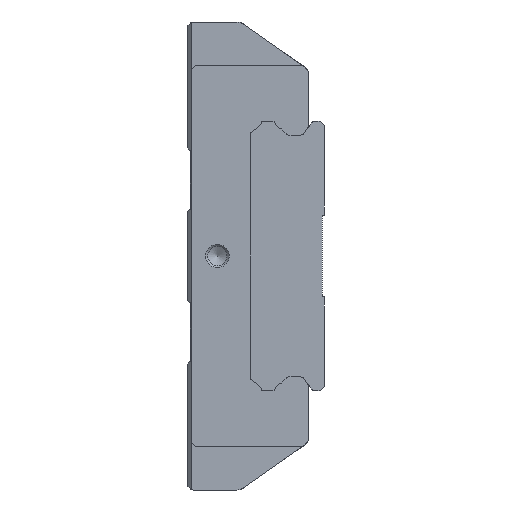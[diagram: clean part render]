
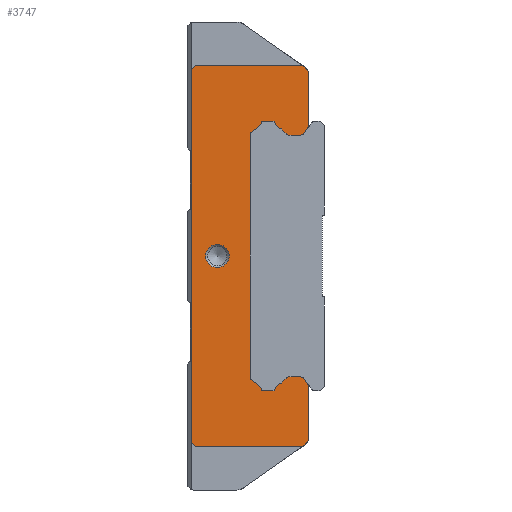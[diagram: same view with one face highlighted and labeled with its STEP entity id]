
A CAD part, left-side view. The second image highlights one B-rep face of the part: STEP entity #3747.
In plain terms, the highlighted planar face has unit normal (-1, 0, 0).
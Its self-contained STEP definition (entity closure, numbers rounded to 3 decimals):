
#149=PLANE('',#4084);
#389=LINE('',#5959,#737);
#403=LINE('',#5986,#751);
#409=LINE('',#5998,#757);
#413=LINE('',#6005,#761);
#425=LINE('',#6030,#773);
#428=LINE('',#6035,#776);
#434=LINE('',#6047,#782);
#440=LINE('',#6062,#788);
#444=LINE('',#6070,#792);
#454=LINE('',#6087,#802);
#455=LINE('',#6091,#803);
#456=LINE('',#6095,#804);
#457=LINE('',#6099,#805);
#458=LINE('',#6105,#806);
#459=LINE('',#6111,#807);
#460=LINE('',#6112,#808);
#461=LINE('',#6118,#809);
#462=LINE('',#6124,#810);
#463=LINE('',#6128,#811);
#464=LINE('',#6132,#812);
#737=VECTOR('',#4814,1000.);
#751=VECTOR('',#4834,1000.);
#757=VECTOR('',#4844,1000.);
#761=VECTOR('',#4850,1000.);
#773=VECTOR('',#4864,1000.);
#776=VECTOR('',#4869,1000.);
#782=VECTOR('',#4879,1000.);
#788=VECTOR('',#4899,1000.);
#792=VECTOR('',#4907,1000.);
#802=VECTOR('',#4919,1000.);
#803=VECTOR('',#4924,1000.);
#804=VECTOR('',#4927,1000.);
#805=VECTOR('',#4930,1000.);
#806=VECTOR('',#4935,1000.);
#807=VECTOR('',#4940,1000.);
#808=VECTOR('',#4941,1000.);
#809=VECTOR('',#4946,1000.);
#810=VECTOR('',#4951,1000.);
#811=VECTOR('',#4954,1000.);
#812=VECTOR('',#4957,1000.);
#1435=ORIENTED_EDGE('',*,*,#2287,.T.);
#1436=ORIENTED_EDGE('',*,*,#2288,.T.);
#1437=ORIENTED_EDGE('',*,*,#2289,.F.);
#1438=ORIENTED_EDGE('',*,*,#2290,.T.);
#1439=ORIENTED_EDGE('',*,*,#2291,.F.);
#1440=ORIENTED_EDGE('',*,*,#2292,.T.);
#1441=ORIENTED_EDGE('',*,*,#2293,.F.);
#1442=ORIENTED_EDGE('',*,*,#2294,.T.);
#1443=ORIENTED_EDGE('',*,*,#2295,.T.);
#1444=ORIENTED_EDGE('',*,*,#2296,.T.);
#1445=ORIENTED_EDGE('',*,*,#2297,.F.);
#1446=ORIENTED_EDGE('',*,*,#2298,.T.);
#1447=ORIENTED_EDGE('',*,*,#2264,.T.);
#1448=ORIENTED_EDGE('',*,*,#2299,.T.);
#1449=ORIENTED_EDGE('',*,*,#2300,.F.);
#1450=ORIENTED_EDGE('',*,*,#2301,.T.);
#1451=ORIENTED_EDGE('',*,*,#2302,.T.);
#1452=ORIENTED_EDGE('',*,*,#2303,.T.);
#1453=ORIENTED_EDGE('',*,*,#2304,.F.);
#1454=ORIENTED_EDGE('',*,*,#2305,.T.);
#1455=ORIENTED_EDGE('',*,*,#2306,.F.);
#1456=ORIENTED_EDGE('',*,*,#2307,.T.);
#1457=ORIENTED_EDGE('',*,*,#2308,.F.);
#1458=ORIENTED_EDGE('',*,*,#2309,.T.);
#1459=ORIENTED_EDGE('',*,*,#2286,.F.);
#1460=ORIENTED_EDGE('',*,*,#2243,.F.);
#1461=ORIENTED_EDGE('',*,*,#2239,.F.);
#1462=ORIENTED_EDGE('',*,*,#2233,.F.);
#1463=ORIENTED_EDGE('',*,*,#2272,.F.);
#1464=ORIENTED_EDGE('',*,*,#2219,.F.);
#1465=ORIENTED_EDGE('',*,*,#2258,.F.);
#1466=ORIENTED_EDGE('',*,*,#2255,.F.);
#1467=ORIENTED_EDGE('',*,*,#2276,.F.);
#2219=EDGE_CURVE('',#2675,#2676,#389,.T.);
#2233=EDGE_CURVE('',#2685,#2686,#403,.T.);
#2239=EDGE_CURVE('',#2686,#2690,#409,.T.);
#2243=EDGE_CURVE('',#2690,#2692,#413,.T.);
#2255=EDGE_CURVE('',#2703,#2704,#425,.T.);
#2258=EDGE_CURVE('',#2704,#2675,#428,.T.);
#2264=EDGE_CURVE('',#2706,#2708,#434,.T.);
#2272=EDGE_CURVE('',#2676,#2685,#440,.T.);
#2276=EDGE_CURVE('',#2711,#2703,#444,.T.);
#2286=EDGE_CURVE('',#2692,#2716,#454,.T.);
#2287=EDGE_CURVE('',#2719,#2719,#2915,.T.);
#2288=EDGE_CURVE('',#2711,#2720,#455,.T.);
#2289=EDGE_CURVE('',#2721,#2720,#2916,.T.);
#2290=EDGE_CURVE('',#2721,#2722,#456,.T.);
#2291=EDGE_CURVE('',#2723,#2722,#2917,.T.);
#2292=EDGE_CURVE('',#2723,#2724,#457,.T.);
#2293=EDGE_CURVE('',#2725,#2724,#2918,.T.);
#2294=EDGE_CURVE('',#2725,#2726,#2919,.T.);
#2295=EDGE_CURVE('',#2726,#2727,#458,.T.);
#2296=EDGE_CURVE('',#2727,#2728,#2920,.T.);
#2297=EDGE_CURVE('',#2729,#2728,#2921,.T.);
#2298=EDGE_CURVE('',#2729,#2706,#459,.T.);
#2299=EDGE_CURVE('',#2708,#2730,#460,.T.);
#2300=EDGE_CURVE('',#2731,#2730,#2922,.T.);
#2301=EDGE_CURVE('',#2731,#2732,#2923,.T.);
#2302=EDGE_CURVE('',#2732,#2733,#461,.T.);
#2303=EDGE_CURVE('',#2733,#2734,#2924,.T.);
#2304=EDGE_CURVE('',#2735,#2734,#2925,.T.);
#2305=EDGE_CURVE('',#2735,#2736,#462,.T.);
#2306=EDGE_CURVE('',#2737,#2736,#2926,.T.);
#2307=EDGE_CURVE('',#2737,#2738,#463,.T.);
#2308=EDGE_CURVE('',#2739,#2738,#2927,.T.);
#2309=EDGE_CURVE('',#2739,#2716,#464,.T.);
#2675=VERTEX_POINT('',#5958);
#2676=VERTEX_POINT('',#5960);
#2685=VERTEX_POINT('',#5985);
#2686=VERTEX_POINT('',#5987);
#2690=VERTEX_POINT('',#5999);
#2692=VERTEX_POINT('',#6006);
#2703=VERTEX_POINT('',#6029);
#2704=VERTEX_POINT('',#6031);
#2706=VERTEX_POINT('',#6042);
#2708=VERTEX_POINT('',#6046);
#2711=VERTEX_POINT('',#6068);
#2716=VERTEX_POINT('',#6080);
#2719=VERTEX_POINT('',#6090);
#2720=VERTEX_POINT('',#6092);
#2721=VERTEX_POINT('',#6094);
#2722=VERTEX_POINT('',#6096);
#2723=VERTEX_POINT('',#6098);
#2724=VERTEX_POINT('',#6100);
#2725=VERTEX_POINT('',#6102);
#2726=VERTEX_POINT('',#6104);
#2727=VERTEX_POINT('',#6106);
#2728=VERTEX_POINT('',#6108);
#2729=VERTEX_POINT('',#6110);
#2730=VERTEX_POINT('',#6113);
#2731=VERTEX_POINT('',#6115);
#2732=VERTEX_POINT('',#6117);
#2733=VERTEX_POINT('',#6119);
#2734=VERTEX_POINT('',#6121);
#2735=VERTEX_POINT('',#6123);
#2736=VERTEX_POINT('',#6125);
#2737=VERTEX_POINT('',#6127);
#2738=VERTEX_POINT('',#6129);
#2739=VERTEX_POINT('',#6131);
#2915=CIRCLE('',#4085,3.);
#2916=CIRCLE('',#4086,1.);
#2917=CIRCLE('',#4087,1.);
#2918=CIRCLE('',#4088,2.044);
#2919=CIRCLE('',#4089,0.2);
#2920=CIRCLE('',#4090,0.2);
#2921=CIRCLE('',#4091,2.044);
#2922=CIRCLE('',#4092,2.044);
#2923=CIRCLE('',#4093,0.2);
#2924=CIRCLE('',#4094,0.2);
#2925=CIRCLE('',#4095,2.044);
#2926=CIRCLE('',#4096,1.);
#2927=CIRCLE('',#4097,1.);
#3143=EDGE_LOOP('',(#1435));
#3144=EDGE_LOOP('',(#1436,#1437,#1438,#1439,#1440,#1441,#1442,#1443,#1444,
#1445,#1446,#1447,#1448,#1449,#1450,#1451,#1452,#1453,#1454,#1455,#1456,
#1457,#1458,#1459,#1460,#1461,#1462,#1463,#1464,#1465,#1466,#1467));
#3435=FACE_BOUND('',#3143,.T.);
#3436=FACE_BOUND('',#3144,.T.);
#3747=ADVANCED_FACE('',(#3435,#3436),#149,.F.);
#4084=AXIS2_PLACEMENT_3D('',#6088,#4920,#4921);
#4085=AXIS2_PLACEMENT_3D('',#6089,#4922,#4923);
#4086=AXIS2_PLACEMENT_3D('',#6093,#4925,#4926);
#4087=AXIS2_PLACEMENT_3D('',#6097,#4928,#4929);
#4088=AXIS2_PLACEMENT_3D('',#6101,#4931,#4932);
#4089=AXIS2_PLACEMENT_3D('',#6103,#4933,#4934);
#4090=AXIS2_PLACEMENT_3D('',#6107,#4936,#4937);
#4091=AXIS2_PLACEMENT_3D('',#6109,#4938,#4939);
#4092=AXIS2_PLACEMENT_3D('',#6114,#4942,#4943);
#4093=AXIS2_PLACEMENT_3D('',#6116,#4944,#4945);
#4094=AXIS2_PLACEMENT_3D('',#6120,#4947,#4948);
#4095=AXIS2_PLACEMENT_3D('',#6122,#4949,#4950);
#4096=AXIS2_PLACEMENT_3D('',#6126,#4952,#4953);
#4097=AXIS2_PLACEMENT_3D('',#6130,#4955,#4956);
#4814=DIRECTION('',(0.,0.707,0.707));
#4834=DIRECTION('',(0.,-0.707,0.707));
#4844=DIRECTION('',(0.,-1.,0.));
#4850=DIRECTION('',(0.,-0.707,-0.707));
#4864=DIRECTION('',(0.,0.707,-0.707));
#4869=DIRECTION('',(0.,1.,0.));
#4879=DIRECTION('',(0.,0.,1.));
#4899=DIRECTION('',(0.,0.,1.));
#4907=DIRECTION('',(0.,0.,-1.));
#4919=DIRECTION('',(0.,0.,-1.));
#4920=DIRECTION('',(1.,0.,0.));
#4921=DIRECTION('',(0.,0.,-1.));
#4922=DIRECTION('',(1.,0.,0.));
#4923=DIRECTION('',(0.,0.,-1.));
#4924=DIRECTION('',(0.,0.608,0.794));
#4925=DIRECTION('',(1.,0.,0.));
#4926=DIRECTION('',(0.,0.,-1.));
#4927=DIRECTION('',(0.,1.,0.));
#4928=DIRECTION('',(1.,0.,0.));
#4929=DIRECTION('',(0.,0.,-1.));
#4930=DIRECTION('',(0.,0.673,-0.74));
#4931=DIRECTION('',(1.,0.,0.));
#4932=DIRECTION('',(0.,0.,-1.));
#4933=DIRECTION('',(1.,0.,0.));
#4934=DIRECTION('',(0.,0.,-1.));
#4935=DIRECTION('',(0.,1.,0.));
#4936=DIRECTION('',(1.,0.,0.));
#4937=DIRECTION('',(0.,0.,-1.));
#4938=DIRECTION('',(1.,0.,0.));
#4939=DIRECTION('',(0.,0.,-1.));
#4940=DIRECTION('',(0.,0.825,0.565));
#4941=DIRECTION('',(0.,-0.825,0.565));
#4942=DIRECTION('',(1.,0.,0.));
#4943=DIRECTION('',(0.,0.,-1.));
#4944=DIRECTION('',(1.,0.,0.));
#4945=DIRECTION('',(0.,0.,-1.));
#4946=DIRECTION('',(0.,-1.,0.));
#4947=DIRECTION('',(1.,0.,0.));
#4948=DIRECTION('',(0.,0.,-1.));
#4949=DIRECTION('',(1.,0.,0.));
#4950=DIRECTION('',(0.,0.,-1.));
#4951=DIRECTION('',(0.,-0.673,-0.74));
#4952=DIRECTION('',(1.,0.,0.));
#4953=DIRECTION('',(0.,0.,-1.));
#4954=DIRECTION('',(0.,-1.,0.));
#4955=DIRECTION('',(1.,0.,0.));
#4956=DIRECTION('',(0.,0.,-1.));
#4957=DIRECTION('',(0.,-0.608,0.794));
#5958=CARTESIAN_POINT('',(-53.5,29.,-48.8));
#5959=CARTESIAN_POINT('',(-53.5,29.,-48.8));
#5960=CARTESIAN_POINT('',(-53.5,30.,-47.8));
#5985=CARTESIAN_POINT('',(-53.5,30.,47.8));
#5986=CARTESIAN_POINT('',(-53.5,30.,47.8));
#5987=CARTESIAN_POINT('',(-53.5,29.,48.8));
#5998=CARTESIAN_POINT('',(-53.5,29.,48.8));
#5999=CARTESIAN_POINT('',(-53.5,1.5,48.8));
#6005=CARTESIAN_POINT('',(-53.5,1.5,48.8));
#6006=CARTESIAN_POINT('',(-53.5,0.,47.3));
#6029=CARTESIAN_POINT('',(-53.5,0.,-47.3));
#6030=CARTESIAN_POINT('',(-53.5,0.,-47.3));
#6031=CARTESIAN_POINT('',(-53.5,1.5,-48.8));
#6035=CARTESIAN_POINT('',(-53.5,1.5,-48.8));
#6042=CARTESIAN_POINT('',(-53.5,15.,-31.55));
#6046=CARTESIAN_POINT('',(-53.5,15.,31.55));
#6047=CARTESIAN_POINT('',(-53.5,15.,-31.55));
#6062=CARTESIAN_POINT('',(-53.5,30.,-47.8));
#6068=CARTESIAN_POINT('',(-53.5,0.,-33.134));
#6070=CARTESIAN_POINT('',(-53.5,0.,47.3));
#6080=CARTESIAN_POINT('',(-53.5,0.,33.134));
#6087=CARTESIAN_POINT('',(-53.5,0.,47.3));
#6088=CARTESIAN_POINT('',(-53.5,0.,0.));
#6089=CARTESIAN_POINT('',(-53.5,23.4,0.));
#6090=CARTESIAN_POINT('',(-53.5,23.4,-3.));
#6091=CARTESIAN_POINT('',(-53.5,-0.747,-34.108));
#6092=CARTESIAN_POINT('',(-53.5,1.335,-31.392));
#6093=CARTESIAN_POINT('',(-53.5,2.129,-32.));
#6094=CARTESIAN_POINT('',(-53.5,2.129,-31.));
#6095=CARTESIAN_POINT('',(-53.5,2.129,-31.));
#6096=CARTESIAN_POINT('',(-53.5,5.058,-31.));
#6097=CARTESIAN_POINT('',(-53.5,5.058,-32.));
#6098=CARTESIAN_POINT('',(-53.5,5.798,-31.327));
#6099=CARTESIAN_POINT('',(-53.5,5.798,-31.327));
#6100=CARTESIAN_POINT('',(-53.5,6.938,-32.582));
#6101=CARTESIAN_POINT('',(-53.5,6.641,-34.604));
#6102=CARTESIAN_POINT('',(-53.5,8.666,-34.327));
#6103=CARTESIAN_POINT('',(-53.5,8.864,-34.3));
#6104=CARTESIAN_POINT('',(-53.5,8.864,-34.5));
#6105=CARTESIAN_POINT('',(-53.5,8.864,-34.5));
#6106=CARTESIAN_POINT('',(-53.5,11.936,-34.5));
#6107=CARTESIAN_POINT('',(-53.5,11.936,-34.3));
#6108=CARTESIAN_POINT('',(-53.5,12.134,-34.327));
#6109=CARTESIAN_POINT('',(-53.5,14.159,-34.604));
#6110=CARTESIAN_POINT('',(-53.5,13.004,-32.918));
#6111=CARTESIAN_POINT('',(-53.5,13.004,-32.918));
#6112=CARTESIAN_POINT('',(-53.5,15.,31.55));
#6113=CARTESIAN_POINT('',(-53.5,13.004,32.918));
#6114=CARTESIAN_POINT('',(-53.5,14.159,34.604));
#6115=CARTESIAN_POINT('',(-53.5,12.134,34.327));
#6116=CARTESIAN_POINT('',(-53.5,11.936,34.3));
#6117=CARTESIAN_POINT('',(-53.5,11.936,34.5));
#6118=CARTESIAN_POINT('',(-53.5,11.936,34.5));
#6119=CARTESIAN_POINT('',(-53.5,8.864,34.5));
#6120=CARTESIAN_POINT('',(-53.5,8.864,34.3));
#6121=CARTESIAN_POINT('',(-53.5,8.666,34.327));
#6122=CARTESIAN_POINT('',(-53.5,6.641,34.604));
#6123=CARTESIAN_POINT('',(-53.5,6.938,32.582));
#6124=CARTESIAN_POINT('',(-53.5,6.938,32.582));
#6125=CARTESIAN_POINT('',(-53.5,5.798,31.327));
#6126=CARTESIAN_POINT('',(-53.5,5.058,32.));
#6127=CARTESIAN_POINT('',(-53.5,5.058,31.));
#6128=CARTESIAN_POINT('',(-53.5,5.058,31.));
#6129=CARTESIAN_POINT('',(-53.5,2.129,31.));
#6130=CARTESIAN_POINT('',(-53.5,2.129,32.));
#6131=CARTESIAN_POINT('',(-53.5,1.335,31.392));
#6132=CARTESIAN_POINT('',(-53.5,1.335,31.392));
